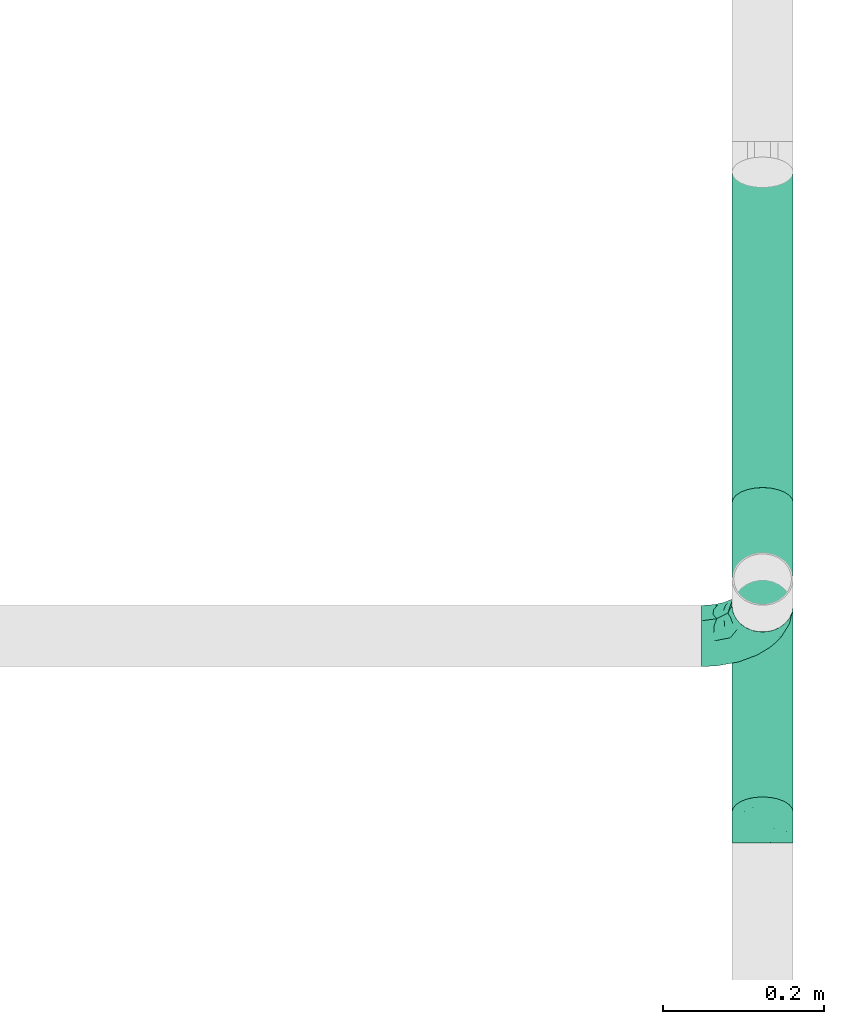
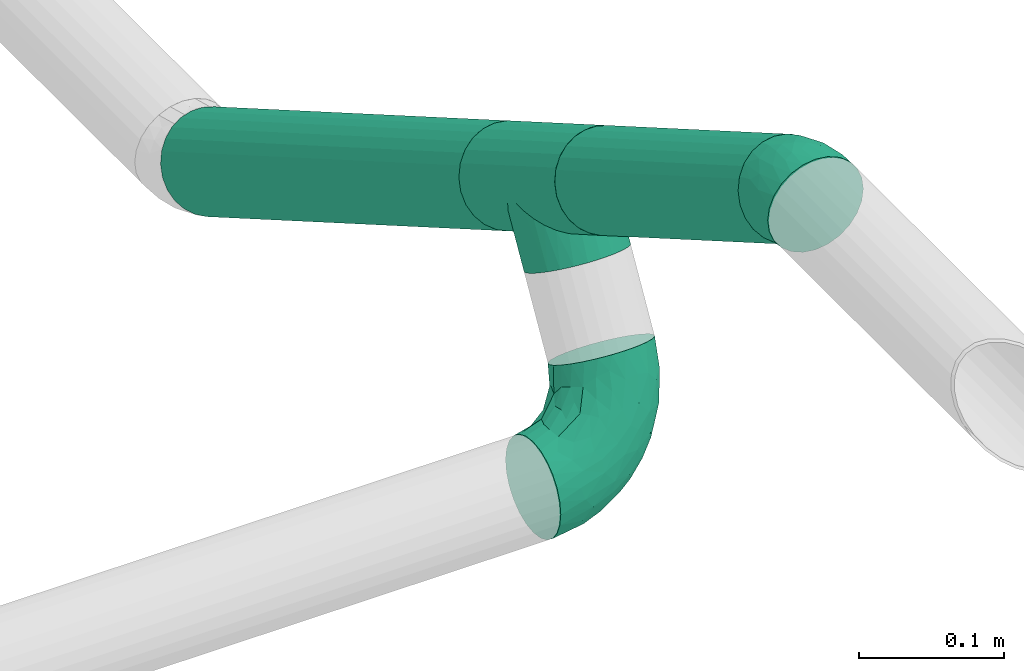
# One storey, part 12 of 51: 3 flow fittings, 2 flow segments.
"""IFC2X3 building model written with IfcOpenShell, lengths in millimetres."""

from ifc_helpers import new_model, entity, si_unit, converted_unit, derived_unit, direction, frame, origin_with_axes, origin_2d_with_axis, place, context, subcontext, project, spatial, hollow_circle, extrude, open_shell, surface_model, source, transform, mapped, type_object, element, save


model = new_model("IFC2X3")

# Units and contexts
model_context = context("Model", 3, precision=0.01, world=frame((0.0, 4.29681676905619e-09, 0.0)), true_north=direction((4.01073788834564e-13, 1.0)))
plan_context = context("Plan", 3, precision=0.01, world=frame((0.0, 4.29681676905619e-09, 0.0)), true_north=direction((4.01073788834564e-13, 1.0)))
body_context = subcontext(model_context, "Body", "Model", "MODEL_VIEW")
ifc_project = project(units=[converted_unit("PLANEANGLEUNIT", "DEGREE", entity("IfcPositiveLengthMeasure", 0.0174532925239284), si_unit("PLANEANGLEUNIT", "RADIAN"), dimensions=[0, 0, 0, 0, 0, 0, 0]), si_unit("AREAUNIT", "SQUARE_METRE"), si_unit("LENGTHUNIT", "METRE", prefix="MILLI"), si_unit("MASSUNIT", "GRAM", prefix="KILO"), si_unit("POWERUNIT", "WATT"), si_unit("PRESSUREUNIT", "PASCAL"), si_unit("FORCEUNIT", "NEWTON", prefix="KILO"), si_unit("ELECTRICVOLTAGEUNIT", "VOLT"), si_unit("ELECTRICCURRENTUNIT", "AMPERE"), si_unit("THERMODYNAMICTEMPERATUREUNIT", "DEGREE_CELSIUS"), si_unit("TIMEUNIT", "SECOND"), si_unit("VOLUMEUNIT", "CUBIC_METRE"), derived_unit("LINEARVELOCITYUNIT", [(si_unit("LENGTHUNIT", "METRE"), 1), (si_unit("TIMEUNIT", "SECOND"), -1)]), derived_unit("VOLUMETRICFLOWRATEUNIT", [(si_unit("VOLUMEUNIT", "CUBIC_METRE"), 1), (si_unit("TIMEUNIT", "SECOND"), -1)]), derived_unit("THERMALTRANSMITTANCEUNIT", [(si_unit("POWERUNIT", "WATT"), 1), (si_unit("THERMODYNAMICTEMPERATUREUNIT", "KELVIN"), -1), (si_unit("AREAUNIT", "SQUARE_METRE"), -1)]), derived_unit("SOUNDPRESSUREUNIT", [(si_unit("PRESSUREUNIT", "PASCAL"), 1)])], contexts=[model_context, plan_context])

# Site, building, storey
site_placement = place(None, frame((0.0, -4.29681676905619e-09, 0.0), z_axis=(0.0, 0.0, 1.0), x_axis=(1.0, 0.0, 0.0)))
site = spatial("IfcSite", under=ifc_project, at=site_placement, Name="ENGM", CompositionType="ELEMENT")
building_placement = place(site_placement, frame((0.0, 4.29681676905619e-09, 0.0), z_axis=(0.0, 0.0, 1.0), x_axis=(1.0, 0.0, 0.0)))
building = spatial("IfcBuilding", under=site, at=building_placement, Name="TH", CompositionType="ELEMENT")
storey_placement = place(building_placement, frame((0.0, 0.0, 210200.0), z_axis=(0.0, 0.0, 1.0), x_axis=(1.0, 0.0, 0.0)))
storey = spatial("IfcBuildingStorey", under=building, at=storey_placement, Name="Nivå F - 0,7 m", CompositionType="ELEMENT", Elevation=210200.0)

# Flow fittings
pipe_fitting_type_1 = type_object("IfcPipeFittingType", Name="magi_pipe_fe_tee_centric_90_NOR", PredefinedType="JUNCTION")
shared_shape_1 = source(origin_with_axes(), body_context, "Body", "SurfaceModel", [
    surface_model("IfcShellBasedSurfaceModel", [(-76.2, 19.05, -32.99557), (-76.2, 9.86101, -36.80177), (-76.2, 0.0, -38.1), (-76.2, 26.94077, -26.94077), (-76.2, 36.80177, -9.86101), (-76.2, 32.99557, -19.05), (-76.2, -19.05, -32.99557), (-76.2, -26.94077, -26.94077), (-76.2, -9.86101, -36.80177), (-76.2, 38.1, 0.0), (-76.2, 36.80177, 9.86101), (-76.2, -38.1, 0.0), (-76.2, -36.80177, -9.86101), (-76.2, -32.99557, -19.05), (-76.2, 32.99557, 19.05), (-76.2, -36.80177, 9.86101), (-76.2, 19.05, 32.99557), (-76.2, 26.94077, 26.94077), (-76.2, 0.0, 38.1), (-76.2, 9.86101, 36.80177), (-76.2, -26.94077, 26.94077), (-76.2, -32.99557, 19.05), (-76.2, -9.86101, 36.80177), (-76.2, -19.05, 32.99557), (76.2, 0.0, -38.1), (76.2, -36.80177, 9.86101), (76.2, -38.1, 0.0), (76.2, 36.80177, -9.86101), (76.2, 9.86101, -36.80177), (76.2, 19.05, -32.99557), (76.2, 26.94077, -26.94077), (76.2, 32.99557, -19.05), (76.2, -9.86101, -36.80177), (76.2, -26.94077, -26.94077), (76.2, -19.05, -32.99557), (76.2, -32.99557, -19.05), (76.2, -36.80177, -9.86101), (76.2, 19.05, 32.99557), (76.2, 36.80177, 9.86101), (76.2, 32.99557, 19.05), (76.2, 0.0, 38.1), (76.2, 26.94077, 26.94077), (76.2, 9.86101, 36.80177), (76.2, -32.99557, 19.05), (76.2, -26.94077, 26.94077), (76.2, -19.05, 32.99557), (76.2, -9.86101, 36.80177), (76.2, 38.1, 0.0), (37.03376, -37.03376, 8.95045), (38.1, -38.1, 0.0), (76.2, -34.89867, 14.4555), (35.56052, -35.56052, 12.98504), (34.08727, -34.08727, 17.01964), (18.8305, -18.8305, 33.12132), (76.2, -22.99539, 29.96817), (29.78269, -29.78269, 23.76134), (76.2, -29.96817, 22.99539), (24.5894, -24.5894, 29.10277), (-35.56052, -35.56052, 12.98504), (-76.2, -34.89867, 14.4555), (-34.08727, -34.08727, 17.01964), (-37.03376, -37.03376, 8.95045), (-38.1, -38.1, 0.0), (-18.8305, -18.8305, 33.12132), (-76.2, -22.99539, 29.96817), (-29.78269, -29.78269, 23.76134), (-24.5894, -24.5894, 29.10277), (-76.2, -29.96817, 22.99539), (-12.71924, -12.71924, 35.91422), (6.40528, -6.40528, 37.55772), (12.71924, -12.71924, 35.91422), (0.0, 0.0, 38.1), (-6.40528, -6.40528, 37.55772), (6.40528, -6.40528, -37.55772), (0.0, 0.0, -38.1), (12.71924, -12.71924, -35.91422), (-24.5894, -24.5894, -29.10277), (-76.2, -22.99539, -29.96817), (-35.56052, -35.56052, -12.98504), (-37.03376, -37.03376, -8.95045), (-29.78269, -29.78269, -23.76134), (-76.2, -29.96817, -22.99539), (-6.40528, -6.40528, -37.55772), (-12.71924, -12.71924, -35.91422), (18.8305, -18.8305, -33.12132), (76.2, -22.99539, -29.96817), (24.5894, -24.5894, -29.10277), (-76.2, -34.89867, -14.4555), (-34.08727, -34.08727, -17.01964), (29.78269, -29.78269, -23.76134), (76.2, -29.96817, -22.99539), (37.03376, -37.03376, -8.95045), (35.56052, -35.56052, -12.98504), (34.08727, -34.08727, -17.01964), (76.2, -34.89867, -14.4555), (-18.8305, -18.8305, -33.12132), (0.0, -57.15, -38.1), (9.86101, -57.15, -36.80177), (19.05, -57.15, -32.99557), (26.94077, -57.15, -26.94077), (32.99557, -57.15, -19.05), (36.80177, -57.15, -9.86101), (0.0, -57.15, 38.1), (-26.94077, -57.15, -26.94077), (-9.86101, -57.15, -36.80177), (-19.05, -57.15, -32.99557), (-36.80177, -57.15, -9.86101), (-32.99557, -57.15, -19.05), (-32.99557, -57.15, 19.05), (-36.80177, -57.15, 9.86101), (-38.1, -57.15, 0.0), (19.05, -57.15, 32.99557), (36.80177, -57.15, 9.86101), (32.99557, -57.15, 19.05), (26.94077, -57.15, 26.94077), (9.86101, -57.15, 36.80177), (-26.94077, -57.15, 26.94077), (-19.05, -57.15, 32.99557), (-9.86101, -57.15, 36.80177), (38.1, -57.15, 0.0)], [open_shell([[[0, 1, 2]], [[3, 0, 2]], [[4, 5, 3]], [[6, 7, 8]], [[9, 4, 10]], [[11, 3, 2]], [[4, 3, 11]], [[11, 8, 7]], [[12, 11, 13]], [[7, 13, 11]], [[11, 2, 8]], [[11, 10, 4]], [[14, 10, 11]], [[14, 11, 15]], [[15, 16, 14]], [[17, 14, 16]], [[18, 19, 16]], [[20, 18, 21]], [[15, 21, 18]], [[22, 18, 23]], [[20, 23, 18]], [[18, 16, 15]], [[24, 25, 26]], [[27, 28, 29]], [[30, 31, 27]], [[30, 27, 29]], [[28, 25, 24]], [[32, 33, 34]], [[32, 24, 33]], [[35, 26, 36]], [[26, 35, 33]], [[24, 26, 33]], [[28, 27, 37]], [[27, 38, 37]], [[37, 38, 39]], [[37, 40, 28]], [[37, 39, 41]], [[40, 37, 42]], [[43, 40, 44]], [[25, 28, 43]], [[45, 40, 46]], [[40, 45, 44]], [[40, 43, 28]], [[38, 27, 47]], [[26, 25, 48]], [[48, 49, 26]], [[25, 50, 51]], [[50, 43, 52]], [[45, 53, 54]], [[44, 55, 56]], [[55, 44, 57]], [[43, 55, 52]], [[57, 44, 54]], [[15, 58, 59]], [[60, 59, 58]], [[61, 11, 62]], [[11, 61, 15]], [[15, 61, 58]], [[63, 23, 64]], [[65, 66, 20]], [[65, 67, 21]], [[20, 66, 64]], [[63, 68, 23]], [[65, 21, 60]], [[50, 52, 51]], [[54, 53, 57]], [[46, 40, 69]], [[25, 51, 48]], [[53, 45, 70]], [[69, 70, 46]], [[65, 20, 67]], [[69, 40, 71]], [[70, 45, 46]], [[14, 41, 39]], [[10, 39, 38]], [[16, 42, 37]], [[17, 37, 41]], [[42, 71, 40]], [[9, 38, 47]], [[72, 71, 18]], [[60, 21, 59]], [[72, 22, 68]], [[22, 72, 18]], [[22, 23, 68]], [[71, 19, 18]], [[63, 64, 66]], [[42, 19, 71]], [[16, 19, 42]], [[16, 37, 17]], [[14, 17, 41]], [[10, 14, 39]], [[38, 9, 10]], [[55, 43, 56]], [[3, 31, 30]], [[4, 27, 31]], [[9, 47, 27]], [[0, 30, 29]], [[24, 32, 73]], [[28, 24, 74]], [[73, 32, 75]], [[76, 7, 77]], [[29, 28, 1]], [[32, 34, 75]], [[24, 73, 74]], [[4, 31, 5]], [[0, 3, 30]], [[5, 31, 3]], [[9, 27, 4]], [[12, 78, 79]], [[80, 13, 81]], [[82, 83, 8]], [[74, 82, 2]], [[74, 2, 1]], [[2, 82, 8]], [[83, 6, 8]], [[1, 0, 29]], [[74, 1, 28]], [[84, 85, 86]], [[85, 33, 86]], [[87, 88, 78]], [[84, 34, 85]], [[89, 86, 33]], [[90, 35, 89]], [[34, 84, 75]], [[36, 91, 92]], [[91, 36, 26]], [[93, 94, 92]], [[49, 91, 26]], [[35, 93, 89]], [[76, 77, 95]], [[36, 92, 94]], [[77, 6, 95]], [[7, 76, 80]], [[7, 80, 81]], [[93, 35, 94]], [[95, 6, 83]], [[79, 62, 11]], [[12, 87, 78]], [[88, 87, 13]], [[12, 79, 11]], [[88, 13, 80]], [[89, 33, 90]], [[96, 97, 98]], [[96, 98, 99]], [[99, 100, 101]], [[99, 101, 96]], [[102, 103, 96]], [[104, 103, 105]], [[104, 96, 103]], [[103, 106, 107]], [[103, 108, 106]], [[106, 109, 110]], [[111, 96, 101]], [[112, 113, 101]], [[101, 113, 111]], [[111, 102, 96]], [[111, 113, 114]], [[102, 111, 115]], [[108, 102, 116]], [[109, 106, 108]], [[117, 102, 118]], [[102, 117, 116]], [[102, 108, 103]], [[112, 101, 119]], [[61, 62, 110]], [[109, 61, 110]], [[116, 117, 66]], [[65, 108, 116]], [[60, 109, 108]], [[68, 117, 118]], [[60, 61, 109]], [[66, 65, 116]], [[60, 108, 65]], [[68, 63, 117]], [[102, 71, 72]], [[68, 118, 72]], [[66, 117, 63]], [[72, 118, 102]], [[69, 102, 115]], [[111, 70, 115]], [[113, 112, 52]], [[55, 114, 113]], [[57, 111, 114]], [[48, 112, 119]], [[57, 53, 111]], [[70, 69, 115]], [[53, 70, 111]], [[49, 48, 119]], [[52, 55, 113]], [[48, 52, 112]], [[57, 114, 55]], [[102, 69, 71]], [[49, 119, 91]], [[101, 91, 119]], [[89, 100, 99]], [[99, 98, 86]], [[93, 101, 100]], [[75, 98, 97]], [[93, 91, 101]], [[86, 89, 99]], [[93, 100, 89]], [[75, 84, 98]], [[96, 74, 73]], [[75, 97, 73]], [[86, 98, 84]], [[73, 97, 96]], [[82, 96, 104]], [[105, 83, 104]], [[107, 106, 88]], [[80, 103, 107]], [[76, 105, 103]], [[79, 106, 110]], [[76, 95, 105]], [[83, 82, 104]], [[95, 83, 105]], [[62, 79, 110]], [[88, 80, 107]], [[79, 88, 106]], [[76, 103, 80]], [[96, 82, 74]]])]),
])
flow_fitting_1_placement = place(storey_placement, frame((910379.87531, 484429.18878, 3105.74364), z_axis=(-1.0, 0.0, 0.0), x_axis=(0.0, -0.866025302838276, 0.500000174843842)))
element("IfcFlowFitting", 1, at=flow_fitting_1_placement, inside=storey, type_object=pipe_fitting_type_1, Name="magi_pipe_fe_tee_centric_90_NOR", context=body_context, shape_type="MappedRepresentation", body=[
    mapped(shared_shape_1, transform((0.0, 0.0, 0.0), scale=1.0)),
])
pipe_fitting_type_2 = type_object("IfcPipeFittingType", Name="magi_pipe_fe_elbow_short_001", PredefinedType="BEND")
shared_shape_2 = source(origin_with_axes(), body_context, "Body", "SurfaceModel", [
    surface_model("IfcShellBasedSurfaceModel", [(-20.41773, 19.05, -32.99557), (-20.41773, 9.86101, -36.80177), (-20.41773, 0.0, -38.1), (-20.41773, 26.94077, -26.94077), (-20.41773, 36.80177, -9.86101), (-20.41773, 32.99557, -19.05), (-20.41773, -36.80177, 9.86101), (-20.41773, -9.86101, -36.80177), (-20.41773, -26.94077, -26.94077), (-20.41773, -32.99557, -19.05), (-20.41773, -19.05, -32.99557), (-20.41773, -36.80177, -9.86101), (-20.41773, -38.1, 0.0), (-20.41773, 36.80177, 9.86101), (-20.41773, 26.94077, 26.94077), (-20.41773, 32.99557, 19.05), (-20.41773, 9.86101, 36.80177), (-20.41773, 19.05, 32.99557), (-20.41773, -19.05, 32.99557), (-20.41773, 0.0, 38.1), (-20.41773, -32.99557, 19.05), (-20.41773, -26.94077, 26.94077), (-20.41773, -9.86101, 36.80177), (-20.41773, 38.1, 0.0), (12.75177, 18.74875, -36.80177), (22.61278, 1.66898, -36.80177), (17.68227, 10.20886, -38.1), (4.21189, 33.54025, -26.94077), (8.15727, 26.70665, -32.99557), (1.18449, 38.78387, -19.05), (-0.71862, 42.08013, -9.86101), (36.08316, -21.66241, 9.86101), (27.20727, -6.28892, -32.99557), (36.73227, -22.7867, 0.0), (31.15266, -13.12253, -26.94077), (34.18006, -18.36614, -19.05), (36.08316, -21.66241, -9.86101), (-1.36773, 43.20443, 0.0), (-0.71862, 42.08013, 9.86101), (1.18449, 38.78387, 19.05), (4.21189, 33.54025, 26.94077), (8.15727, 26.70665, 32.99557), (12.75177, 18.74875, 36.80177), (27.20727, -6.28892, 32.99557), (31.15266, -13.12253, 26.94077), (34.18006, -18.36614, 19.05), (17.68227, 10.20886, 38.1), (22.61278, 1.66898, 36.80177), (7.29358, -27.22001, 22.33293), (-1.09992, -21.89609, 29.76772), (3.30037, -12.31715, 34.83139), (-2.62523, -3.73317, 37.6728), (-0.57168, -33.71288, 13.85834), (0.09338, -35.5825, 7.01449), (14.39197, -31.9735, 7.08019), (-1.77816, 6.6362, 37.86976), (-8.42528, 31.44358, 23.65813), (-6.56271, 24.49236, 30.62283), (16.29245, -16.64338, 29.88105), (-4.21472, 16.05344, 35.47034), (-10.55672, 39.39823, 0.0), (9.16529, -34.20532, 0.0), (19.18258, -30.05602, 0.0), (-1.58459, -35.62057, 0.0), (19.33002, -28.14585, 13.93569), (0.81323, -3.03502, -37.65129), (-3.26088, 6.32167, -37.86263), (8.20407, -10.65974, -34.91314), (-8.42528, 31.44358, -23.65813), (6.90688, -32.20739, -13.57906), (-6.71328, -35.4169, -11.71236), (-4.03016, -29.34141, -22.69091), (-6.56271, 24.49236, -30.62283), (21.72669, -26.47224, -15.54322), (19.81809, -29.80624, -8.29806), (15.01166, -24.64064, -22.58616), (-4.3735, -17.34553, -33.18873), (5.51141, -20.56885, -29.6049), (-4.45482, 15.99273, -35.46902), (3.54476, -34.93898, -6.77445)], [open_shell([[[0, 1, 2]], [[3, 0, 2]], [[4, 5, 3]], [[6, 3, 2]], [[6, 2, 7]], [[8, 9, 10]], [[10, 9, 6]], [[11, 12, 9]], [[9, 12, 6]], [[10, 6, 7]], [[3, 6, 4]], [[13, 4, 14]], [[15, 13, 14]], [[16, 17, 14]], [[18, 14, 4]], [[16, 14, 19]], [[20, 21, 6]], [[6, 21, 4]], [[22, 19, 18]], [[18, 4, 21]], [[14, 18, 19]], [[23, 4, 13]], [[24, 25, 26]], [[27, 24, 28]], [[27, 29, 30]], [[24, 27, 25]], [[25, 27, 31]], [[32, 33, 34]], [[31, 33, 32]], [[35, 33, 36]], [[33, 35, 34]], [[31, 32, 25]], [[27, 30, 37]], [[37, 38, 39]], [[37, 39, 40]], [[40, 41, 42]], [[40, 42, 37]], [[42, 43, 27]], [[31, 44, 45]], [[44, 31, 43]], [[43, 46, 47]], [[31, 27, 43]], [[42, 46, 43]], [[27, 37, 42]], [[20, 48, 21]], [[49, 50, 18]], [[18, 21, 49]], [[45, 44, 48]], [[19, 22, 51]], [[22, 18, 50]], [[52, 53, 54]], [[51, 55, 19]], [[19, 55, 16]], [[46, 42, 55]], [[48, 20, 52]], [[43, 47, 50]], [[14, 56, 15]], [[57, 14, 17]], [[58, 48, 44]], [[21, 48, 49]], [[16, 59, 17]], [[60, 13, 38]], [[20, 6, 52]], [[60, 23, 13]], [[38, 13, 15]], [[22, 50, 51]], [[16, 55, 59]], [[57, 59, 41]], [[53, 61, 54]], [[62, 54, 61]], [[51, 46, 55]], [[43, 58, 44]], [[12, 63, 53]], [[51, 47, 46]], [[48, 58, 49]], [[52, 64, 48]], [[40, 39, 56]], [[49, 58, 50]], [[50, 58, 43]], [[33, 31, 62]], [[6, 53, 52]], [[57, 56, 14]], [[39, 38, 15]], [[37, 60, 38]], [[54, 31, 64]], [[48, 64, 45]], [[31, 54, 62]], [[42, 59, 55]], [[41, 40, 57]], [[40, 56, 57]], [[12, 53, 6]], [[15, 56, 39]], [[42, 41, 59]], [[59, 57, 17]], [[52, 54, 64]], [[45, 64, 31]], [[61, 53, 63]], [[47, 51, 50]], [[2, 65, 7]], [[26, 66, 24]], [[25, 32, 67]], [[65, 2, 66]], [[68, 3, 5]], [[69, 70, 71]], [[3, 68, 72]], [[73, 36, 74]], [[30, 5, 4]], [[34, 35, 75]], [[76, 67, 77]], [[1, 78, 66]], [[79, 70, 69]], [[9, 70, 11]], [[79, 11, 70]], [[71, 70, 9]], [[8, 10, 76]], [[24, 78, 28]], [[11, 79, 63]], [[9, 8, 71]], [[67, 76, 7]], [[78, 72, 28]], [[72, 68, 27]], [[77, 71, 8]], [[4, 23, 60]], [[33, 74, 36]], [[60, 37, 30]], [[29, 68, 5]], [[73, 75, 35]], [[30, 29, 5]], [[68, 29, 27]], [[71, 77, 75]], [[24, 66, 78]], [[7, 65, 67]], [[2, 1, 66]], [[3, 72, 0]], [[78, 1, 0]], [[65, 66, 26]], [[25, 67, 65]], [[32, 77, 67]], [[72, 78, 0]], [[77, 32, 34]], [[74, 79, 69]], [[69, 71, 75]], [[79, 74, 61]], [[63, 12, 11]], [[33, 62, 74]], [[34, 75, 77]], [[27, 28, 72]], [[25, 65, 26]], [[74, 62, 61]], [[4, 60, 30]], [[73, 74, 69]], [[63, 79, 61]], [[75, 73, 69]], [[36, 73, 35]], [[8, 76, 77]], [[7, 76, 10]]])]),
])
flow_fitting_2_placement = place(storey_placement, frame((910379.87531, 484092.66853, 3300.0337), z_axis=(1.0, 0.0, 0.0), x_axis=(0.0, -0.866025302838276, 0.500000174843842)))
element("IfcFlowFitting", 2, at=flow_fitting_2_placement, inside=storey, type_object=pipe_fitting_type_2, Name="magi_pipe_fe_elbow_short_001", context=body_context, shape_type="MappedRepresentation", body=[
    mapped(shared_shape_2, transform((0.0, 0.0, 0.0), scale=1.0)),
])
shared_shape_3 = source(origin_with_axes(), body_context, "Body", "SurfaceModel", [
    surface_model("IfcShellBasedSurfaceModel", [(-76.2, 19.05, -32.99557), (-76.2, 9.86101, -36.80177), (-76.2, 0.0, -38.1), (-76.2, 26.94077, -26.94077), (-76.2, 36.80177, -9.86101), (-76.2, 32.99557, -19.05), (-76.2, -26.94077, -26.94077), (-76.2, -36.80177, -9.86101), (-76.2, -19.05, -32.99557), (-76.2, -9.86101, -36.80177), (-76.2, -32.99557, -19.05), (-76.2, -38.1, 0.0), (-76.2, -36.80177, 9.86101), (-76.2, 26.94077, 26.94077), (-76.2, 36.80177, 9.86101), (-76.2, 32.99557, 19.05), (-76.2, 9.86101, 36.80177), (-76.2, 19.05, 32.99557), (-76.2, 0.0, 38.1), (-76.2, -32.99557, 19.05), (-76.2, -26.94077, 26.94077), (-76.2, -9.86101, 36.80177), (-76.2, -19.05, 32.99557), (-76.2, 38.1, 0.0), (0.0, 76.2, -38.1), (-9.86101, 76.2, -36.80177), (-19.05, 76.2, -32.99557), (-26.94077, 76.2, -26.94077), (-32.99557, 76.2, -19.05), (-36.80177, 76.2, -9.86101), (26.94077, 76.2, -26.94077), (36.80177, 76.2, -9.86101), (9.86101, 76.2, -36.80177), (19.05, 76.2, -32.99557), (32.99557, 76.2, -19.05), (36.80177, 76.2, 9.86101), (38.1, 76.2, 0.0), (-36.80177, 76.2, 9.86101), (-26.94077, 76.2, 26.94077), (-32.99557, 76.2, 19.05), (-19.05, 76.2, 32.99557), (-9.86101, 76.2, 36.80177), (0.0, 76.2, 38.1), (26.94077, 76.2, 26.94077), (32.99557, 76.2, 19.05), (9.86101, 76.2, 36.80177), (19.05, 76.2, 32.99557), (-38.1, 76.2, 0.0), (-51.47253, -33.41495, 11.97429), (-55.87921, -29.59735, 21.38675), (-40.87936, -32.50576, 0.0), (-57.46182, -35.13216, 0.0), (-9.7569, -13.15819, 14.69187), (-2.65186, -10.17769, 8.01257), (2.20082, -2.20082, 15.78668), (-58.2046, -5.04721, 37.4484), (-53.35237, 5.84022, 38.03506), (13.01533, 9.30417, 14.3119), (23.26567, 31.00373, 18.95093), (8.92292, 13.82363, 24.31711), (-37.93212, -0.34191, 36.92855), (-55.73356, -14.37507, 34.26516), (-29.5907, -8.99996, 31.84562), (-48.87429, -21.76577, 28.30344), (-34.13735, -29.20196, 7.83838), (-24.94775, -24.3882, 0.0), (-13.82363, -8.92292, 24.31711), (-6.80575, 6.80575, 31.14998), (-37.24299, 60.80967, 16.55959), (-31.82754, 59.31737, 25.03043), (-14.22204, 65.71998, 35.68746), (-5.22176, 56.99222, 38.00642), (-58.73143, 14.94265, 35.9909), (-9.94517, 25.51838, 37.4103), (-18.93111, 6.98952, 35.57772), (-3.89226, 20.58438, 35.01344), (-65.91802, 23.07271, 31.04479), (-13.24152, 37.4675, 38.03164), (-28.22122, 28.22122, 37.17425), (-22.68668, 16.64938, 37.90374), (-60.23482, 40.58212, 8.37688), (-60.8286, 37.23683, 16.55705), (-47.30619, 47.30619, 14.2421), (-59.55922, 31.76102, 25.00381), (21.76577, 48.87429, 28.30344), (-39.51357, 50.50487, 21.56421), (14.37507, 55.73356, 34.26516), (29.59735, 55.87921, 21.38675), (33.41495, 51.47253, 11.97429), (-9.01615, -16.27064, 0.0), (-18.50075, -20.95742, 9.87146), (5.04721, 58.2046, 37.4484), (-41.86713, 16.32002, 37.41817), (-37.38612, 9.33613, 38.08374), (24.3882, 24.94775, 0.0), (29.20196, 34.13735, 7.83838), (20.95742, 18.50075, 9.87146), (35.13216, 57.46182, 0.0), (-40.50473, 25.85184, 35.24027), (-31.00373, -23.26567, 18.95093), (-27.62233, 49.24446, 32.02197), (-23.27638, 63.88751, 31.20285), (-40.10509, 61.46399, 8.17366), (-47.75011, 49.97248, 6.70535), (17.55292, 30.69115, 25.82241), (8.99996, 29.5907, 31.84562), (-43.20443, 57.15, 0.0), (-35.27088, 40.23417, 31.3068), (-52.46543, 25.86294, 32.08413), (-0.58232, 0.58231, 22.50977), (-21.74145, 39.43998, 36.62577), (-30.35377, 36.8865, 34.66668), (-16.47755, 51.62643, 36.28492), (-40.16133, 42.54966, 26.98796), (-48.93373, 40.93898, 21.24545), (0.34191, 37.93212, 36.92855), (-30.54899, -16.70018, 26.56572), (10.38979, 2.76708, 7.59679), (32.50576, 40.87936, 0.0), (16.27064, 9.01615, 0.0), (-57.15, 43.20443, 0.0), (3.62725, -3.62725, 0.0), (-56.18403, 32.81229, -25.37784), (-60.79374, 37.24818, -16.56172), (-31.12583, -9.61531, -31.96506), (-33.08389, -0.47526, -36.23756), (-15.30809, -0.63756, -31.219), (-60.31522, 4.8175, -37.976), (-55.58208, -34.10815, -12.42093), (-47.87166, -28.25416, -20.6363), (-36.35476, -28.57081, -12.78243), (-55.4317, 15.55274, -36.12913), (-41.97308, 9.00674, -38.09177), (-32.8123, 56.18403, -25.37784), (-61.68117, 39.97816, -8.33686), (-23.91371, 59.81378, -31.51803), (-15.55274, 55.4317, -36.12913), (-48.48008, 48.48008, -9.09668), (22.76239, 55.12076, -28.76608), (13.14871, 48.24989, -33.88525), (15.02018, 64.34702, -34.67535), (-7.42295, -13.4022, -10.03386), (-7.53093, -9.8797, -17.36177), (4.09889, -3.23385, -10.05311), (-22.23209, 20.60173, -38.07837), (-36.11879, 22.54399, -36.96599), (-59.81378, 23.91371, -31.51803), (-64.14494, -30.32973, -22.13621), (-37.06617, 43.2809, -28.69704), (-35.21221, 35.21221, -33.45314), (-46.56802, 32.18433, -30.26847), (3.32253, -0.70027, -16.3296), (-55.12076, -22.76239, -28.76608), (28.25416, 47.87166, -20.6363), (34.10815, 55.58208, -12.42093), (28.57081, 36.35476, -12.78243), (-64.34702, -15.02018, -34.67535), (4.80394, 56.13349, -37.40338), (-24.08639, -18.54476, -20.78452), (-28.44745, -15.54194, -26.65272), (-13.81153, -9.41447, -23.82138), (-41.58053, -17.39667, -29.91543), (-48.24989, -13.14871, -33.88525), (-56.1335, -4.80394, -37.40338), (-28.5499, 46.87201, -32.27447), (-39.97816, 61.68117, -8.33686), (-4.8175, 60.31522, -37.976), (-13.45022, 13.45022, -35.97664), (0.47526, 33.08389, -36.23756), (1.60394, 17.89715, -31.77365), (-37.24818, 60.79374, -16.56172), (-45.75928, 45.75928, -18.77942), (30.32973, 64.14494, -22.13621), (22.08018, 30.6107, -20.46174), (12.28189, 14.44402, -21.13272), (15.54194, 28.44745, -26.65272), (7.87454, 32.5264, -33.28409), (-9.00674, 41.97308, -38.09177), (-46.32128, 24.51975, -34.33978), (-22.71812, 37.0764, -36.7817), (-0.36118, 0.36118, -22.07635), (-17.64772, -21.30183, -6.55407), (19.53658, 18.92928, -14.18962), (21.30183, 17.64772, -6.55407), (4.4885, 11.61303, -26.72553), (-18.92929, -19.53658, -14.18962)], [open_shell([[[0, 1, 2]], [[3, 0, 2]], [[4, 5, 3]], [[6, 3, 2]], [[4, 3, 7]], [[8, 6, 9]], [[6, 2, 9]], [[10, 7, 6]], [[6, 7, 3]], [[11, 12, 7]], [[12, 4, 7]], [[13, 14, 4]], [[15, 14, 13]], [[16, 17, 13]], [[4, 12, 13]], [[13, 18, 16]], [[19, 20, 12]], [[21, 12, 20]], [[22, 21, 20]], [[21, 13, 12]], [[21, 18, 13]], [[23, 4, 14]], [[24, 25, 26]], [[24, 26, 27]], [[27, 28, 29]], [[24, 27, 30]], [[31, 27, 29]], [[32, 30, 33]], [[32, 24, 30]], [[30, 31, 34]], [[27, 31, 30]], [[31, 35, 36]], [[31, 29, 35]], [[29, 37, 38]], [[38, 37, 39]], [[38, 40, 41]], [[29, 38, 35]], [[42, 38, 41]], [[35, 43, 44]], [[43, 35, 45]], [[43, 45, 46]], [[35, 38, 45]], [[38, 42, 45]], [[37, 29, 47]], [[48, 49, 19]], [[50, 48, 51]], [[52, 53, 54]], [[12, 48, 19]], [[12, 51, 48]], [[18, 55, 56]], [[19, 49, 20]], [[57, 58, 59]], [[60, 61, 62]], [[63, 22, 20]], [[63, 61, 22]], [[64, 50, 65]], [[62, 66, 67]], [[39, 68, 69]], [[41, 70, 71]], [[16, 72, 17]], [[73, 74, 75]], [[17, 76, 13]], [[21, 55, 18]], [[77, 78, 79]], [[80, 81, 82]], [[15, 83, 81]], [[84, 43, 46]], [[23, 14, 80]], [[14, 15, 81]], [[68, 85, 69]], [[83, 15, 13]], [[18, 56, 16]], [[46, 86, 84]], [[13, 76, 83]], [[87, 58, 88]], [[39, 37, 68]], [[89, 90, 65]], [[42, 91, 45]], [[65, 90, 64]], [[42, 41, 71]], [[92, 93, 79]], [[88, 35, 44]], [[44, 43, 87]], [[87, 88, 44]], [[94, 95, 96]], [[88, 97, 35]], [[98, 72, 92]], [[49, 99, 63]], [[69, 100, 101]], [[82, 102, 103]], [[104, 105, 59]], [[106, 102, 47]], [[98, 107, 108]], [[102, 82, 68]], [[86, 46, 45]], [[69, 38, 39]], [[109, 54, 57]], [[110, 100, 111]], [[22, 61, 21]], [[101, 40, 38]], [[70, 41, 40]], [[112, 77, 71]], [[84, 86, 105]], [[96, 95, 58]], [[100, 69, 113]], [[72, 16, 56]], [[108, 113, 83]], [[81, 114, 82]], [[112, 110, 77]], [[91, 71, 115]], [[62, 61, 63]], [[55, 61, 60]], [[116, 99, 66]], [[74, 62, 67]], [[91, 86, 45]], [[105, 86, 115]], [[75, 105, 115]], [[109, 67, 66]], [[59, 105, 67]], [[48, 64, 99]], [[99, 49, 48]], [[63, 20, 49]], [[43, 84, 87]], [[58, 87, 84]], [[92, 72, 56]], [[76, 72, 108]], [[102, 68, 37]], [[82, 114, 85]], [[98, 111, 107]], [[112, 70, 101]], [[114, 83, 113]], [[82, 103, 80]], [[92, 79, 78]], [[115, 71, 77]], [[74, 79, 60]], [[77, 79, 73]], [[71, 91, 42]], [[86, 91, 115]], [[61, 55, 21]], [[56, 55, 60]], [[57, 54, 117]], [[104, 59, 58]], [[116, 66, 62]], [[52, 99, 90]], [[12, 11, 51]], [[97, 88, 118]], [[97, 36, 35]], [[53, 90, 89]], [[90, 53, 52]], [[94, 96, 119]], [[88, 95, 118]], [[117, 54, 53]], [[92, 56, 93]], [[98, 92, 78]], [[111, 98, 78]], [[72, 98, 108]], [[110, 111, 78]], [[107, 111, 100]], [[47, 102, 37]], [[102, 106, 103]], [[106, 120, 103]], [[103, 120, 80]], [[23, 80, 120]], [[14, 81, 80]], [[56, 60, 93]], [[60, 79, 93]], [[117, 121, 119]], [[121, 117, 53]], [[53, 89, 121]], [[119, 96, 117]], [[117, 96, 57]], [[77, 110, 78]], [[100, 110, 112]], [[83, 114, 81]], [[85, 114, 113]], [[69, 85, 113]], [[82, 85, 68]], [[109, 52, 54]], [[99, 52, 66]], [[69, 101, 38]], [[112, 101, 100]], [[100, 113, 107]], [[108, 107, 113]], [[62, 74, 60]], [[75, 74, 67]], [[105, 75, 67]], [[73, 75, 115]], [[77, 73, 115]], [[74, 73, 79]], [[99, 64, 90]], [[50, 64, 48]], [[118, 95, 94]], [[58, 95, 88]], [[58, 57, 96]], [[109, 57, 59]], [[72, 76, 17]], [[83, 76, 108]], [[101, 70, 40]], [[71, 70, 112]], [[58, 84, 104]], [[105, 104, 84]], [[67, 109, 59]], [[52, 109, 66]], [[62, 63, 116]], [[99, 116, 63]], [[122, 5, 123]], [[124, 125, 126]], [[2, 1, 127]], [[128, 129, 130]], [[127, 131, 132]], [[28, 27, 133]], [[120, 134, 23]], [[135, 26, 136]], [[123, 134, 137]], [[138, 139, 140]], [[122, 3, 5]], [[141, 142, 143]], [[144, 132, 145]], [[131, 0, 146]], [[128, 10, 147]], [[148, 149, 150]], [[128, 51, 7]], [[142, 151, 143]], [[152, 6, 8]], [[153, 154, 155]], [[156, 152, 8]], [[32, 157, 24]], [[158, 159, 160]], [[147, 10, 6]], [[129, 152, 161]], [[156, 8, 9]], [[162, 163, 125]], [[154, 34, 31]], [[120, 106, 137]], [[149, 148, 164]], [[47, 29, 165]], [[163, 9, 2]], [[5, 4, 123]], [[25, 166, 136]], [[167, 168, 169]], [[170, 133, 171]], [[25, 24, 166]], [[33, 30, 138]], [[157, 32, 140]], [[29, 28, 170]], [[30, 34, 172]], [[26, 135, 27]], [[132, 131, 145]], [[32, 33, 140]], [[173, 174, 175]], [[169, 168, 176]], [[25, 136, 26]], [[175, 138, 173]], [[168, 177, 157]], [[163, 162, 156]], [[153, 172, 154]], [[10, 128, 7]], [[154, 97, 118]], [[131, 178, 145]], [[0, 3, 146]], [[175, 139, 138]], [[155, 118, 94]], [[131, 1, 0]], [[146, 178, 131]], [[170, 137, 165]], [[149, 179, 145]], [[171, 133, 148]], [[160, 180, 142]], [[65, 181, 89]], [[170, 165, 29]], [[137, 171, 123]], [[172, 138, 30]], [[138, 153, 173]], [[168, 157, 139]], [[166, 157, 177]], [[176, 175, 169]], [[168, 167, 144]], [[154, 31, 97]], [[155, 182, 173]], [[162, 124, 161]], [[147, 152, 129]], [[127, 163, 2]], [[132, 144, 125]], [[132, 125, 163]], [[125, 167, 126]], [[129, 158, 130]], [[31, 36, 97]], [[143, 182, 183]], [[169, 126, 167]], [[3, 122, 146]], [[178, 150, 149]], [[136, 179, 164]], [[133, 27, 135]], [[123, 4, 134]], [[122, 123, 171]], [[133, 170, 28]], [[137, 170, 171]], [[184, 175, 174]], [[180, 160, 126]], [[126, 169, 184]], [[126, 159, 124]], [[51, 128, 50]], [[51, 11, 7]], [[131, 127, 1]], [[163, 127, 132]], [[157, 166, 24]], [[136, 166, 177]], [[164, 179, 149]], [[144, 167, 125]], [[179, 144, 145]], [[168, 144, 177]], [[136, 177, 179]], [[144, 179, 177]], [[141, 121, 89]], [[89, 181, 141]], [[154, 118, 155]], [[183, 155, 94]], [[143, 183, 119]], [[119, 183, 94]], [[155, 183, 182]], [[181, 130, 185]], [[50, 128, 130]], [[130, 181, 65]], [[50, 130, 65]], [[141, 181, 185]], [[142, 141, 185]], [[143, 121, 141]], [[158, 160, 142]], [[142, 180, 151]], [[158, 142, 185]], [[126, 160, 159]], [[130, 158, 185]], [[129, 159, 158]], [[23, 134, 4]], [[120, 137, 134]], [[137, 106, 165]], [[47, 165, 106]], [[174, 151, 180]], [[182, 143, 151]], [[150, 146, 122]], [[149, 145, 178]], [[146, 150, 178]], [[122, 171, 148]], [[148, 150, 122]], [[164, 133, 135]], [[133, 164, 148]], [[164, 135, 136]], [[138, 140, 33]], [[157, 140, 139]], [[154, 172, 34]], [[138, 172, 153]], [[163, 156, 9]], [[152, 156, 162]], [[152, 147, 6]], [[128, 147, 129]], [[155, 173, 153]], [[174, 173, 182]], [[151, 174, 182]], [[174, 180, 184]], [[126, 184, 180]], [[175, 184, 169]], [[168, 139, 176]], [[175, 176, 139]], [[161, 124, 159]], [[125, 124, 162]], [[129, 161, 159]], [[162, 161, 152]], [[143, 119, 121]]])]),
])
flow_fitting_3_placement = place(storey_placement, frame((910379.87531, 484329.45519, 2933.0), z_axis=(0.0, -0.866025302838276, 0.500000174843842), x_axis=(1.0, 0.0, 0.0)))
element("IfcFlowFitting", 3, at=flow_fitting_3_placement, inside=storey, type_object=pipe_fitting_type_2, Name="magi_pipe_fe_elbow_short_001", context=body_context, shape_type="MappedRepresentation", body=[
    mapped(shared_shape_3, transform((0.0, 0.0, 0.0), scale=1.0)),
])

# Flow segments
pipe_segment_type = type_object("IfcPipeSegmentType", Name="Stålrør normaltykke", PredefinedType="RIGIDSEGMENT")
shared_shape_4 = source(origin_with_axes(), body_context, "Body", "SweptSolid", [
    extrude(hollow_circle(Radius=38.0, WallThickness=2.0, at=origin_2d_with_axis()), frame((0.0, 0.0, 0.0), z_axis=(1.0, 0.0, 0.0), x_axis=(0.0, 1.0, 0.0)), (0.0, 0.0, 1.0), 292.0),
])
flow_segment_1_placement = place(storey_placement, frame((910379.87531, 484363.19764, 3143.84364000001), z_axis=(0.0, 0.500000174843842, 0.866025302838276), x_axis=(0.0, -0.866025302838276, 0.500000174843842)))
element("IfcFlowSegment", 4, at=flow_segment_1_placement, inside=storey, type_object=pipe_segment_type, Name="Stålrør normaltykke", context=body_context, shape_type="MappedRepresentation", body=[
    mapped(shared_shape_4, transform((0.0, 0.0, 0.0), scale=1.0)),
])
shared_shape_5 = source(origin_with_axes(), body_context, "Body", "SweptSolid", [
    extrude(hollow_circle(Radius=38.0, WallThickness=2.0, at=origin_2d_with_axis()), frame((0.0, 0.0, 0.0), z_axis=(1.0, 0.0, 0.0), x_axis=(0.0, 1.0, 0.0)), (0.0, 0.0, 1.0), 474.9),
])
flow_segment_2_placement = place(storey_placement, frame((910379.87531, 484906.42901, 2830.20886000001), z_axis=(0.0, 0.500000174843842, 0.866025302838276), x_axis=(0.0, -0.866025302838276, 0.500000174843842)))
element("IfcFlowSegment", 5, at=flow_segment_2_placement, inside=storey, type_object=pipe_segment_type, Name="Stålrør normaltykke", context=body_context, shape_type="MappedRepresentation", body=[
    mapped(shared_shape_5, transform((0.0, 0.0, 0.0), scale=1.0)),
])

save(model, "model.ifc")
